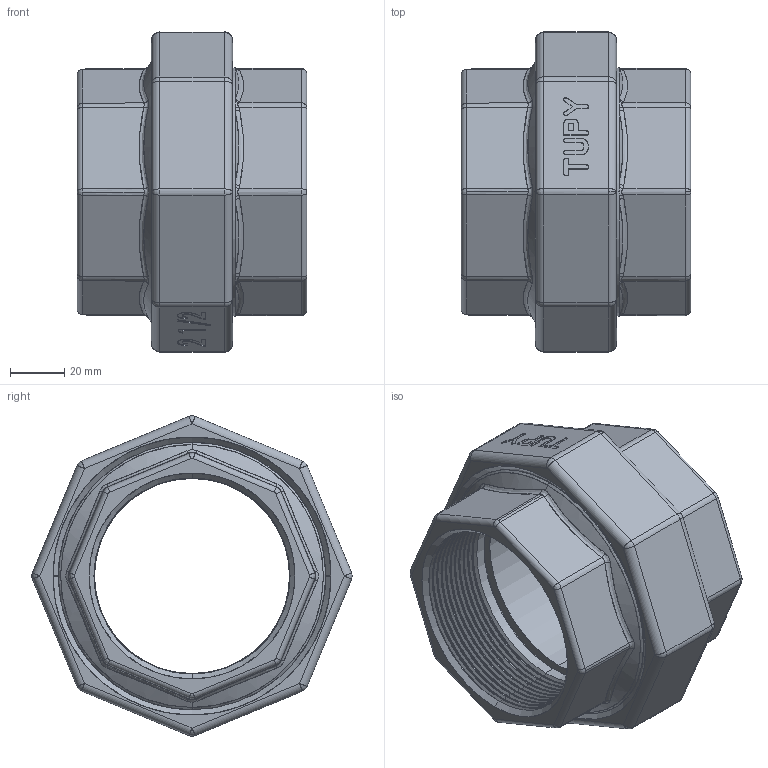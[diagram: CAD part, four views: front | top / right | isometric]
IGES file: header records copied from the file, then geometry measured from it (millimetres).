
Start section: SolidWorks IGES file using analytic representation for surfaces
Global section: file name: C:\Users\Joel Rosa\Desktop\Tubulação\12-62-X\12-62-011.IGS; native system: SolidWorks 2011; preprocessor: SolidWorks 2011; author: Joel Rosa; date: 130721.131100; units: millimetre
Bounding box: 85 x 118.56 x 118.57 mm (x, y, z)
Surface area: 99975.7 mm2 (no closed solid volume)
Topology: 0 solids, 0 shells, 676 faces, 5291 edges, 5285 vertices
Faces by surface type: bspline 416, revolution 260
